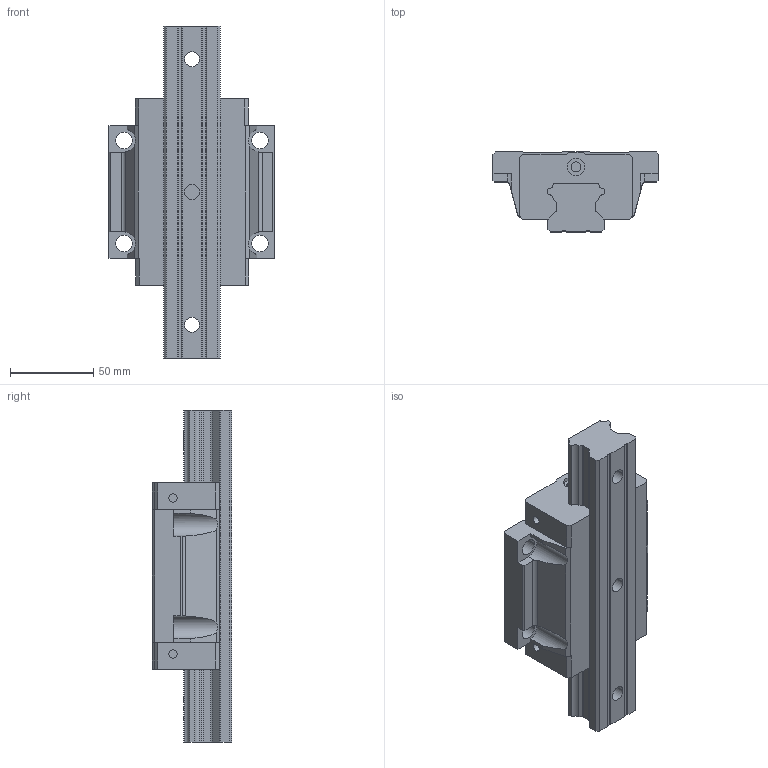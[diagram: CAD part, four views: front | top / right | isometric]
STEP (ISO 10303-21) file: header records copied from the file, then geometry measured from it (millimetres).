
FILE_DESCRIPTION((''),'2;1');
FILE_NAME('HGW35CC_ASM','2008-07-11T',('immo'),(''),'PRO/ENGINEER BY PARAMETRIC TECHNOLOGY CORPORATION, 2004360','PRO/ENGINEER BY PARAMETRIC TECHNOLOGY CORPORATION, 2004360','');
FILE_SCHEMA(('CONFIG_CONTROL_DESIGN'));
Length unit declared in the file: millimetre
Products named in the file (4): HGW35_1; HGR35_1; HGW35_ASM_1_ASM; HGW35CC_ASM
Assembly tree (3 placements, depth 3):
  HGW35CC_ASM
    HGW35_ASM_1_ASM
      HGW35_1
      HGR35_1
Bounding box: 100 x 48 x 200 mm (x, y, z)
Volume: 443030 mm3; surface area: 72348.8 mm2
Topology: 2 solids, 2 shells, 195 faces, 548 edges, 372 vertices
Faces by surface type: plane 127, cylinder 68
Entity records: 6501 total; most frequent: CARTESIAN_POINT 1185, ORIENTED_EDGE 1096, DIRECTION 1076, EDGE_CURVE 548, VECTOR 396, LINE 396, VERTEX_POINT 372, AXIS2_PLACEMENT_3D 340
